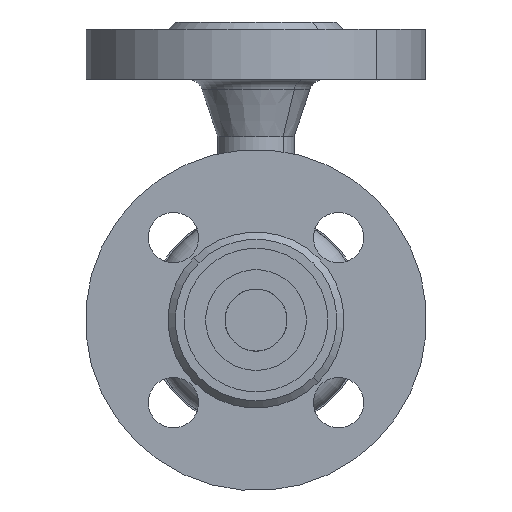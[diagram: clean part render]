
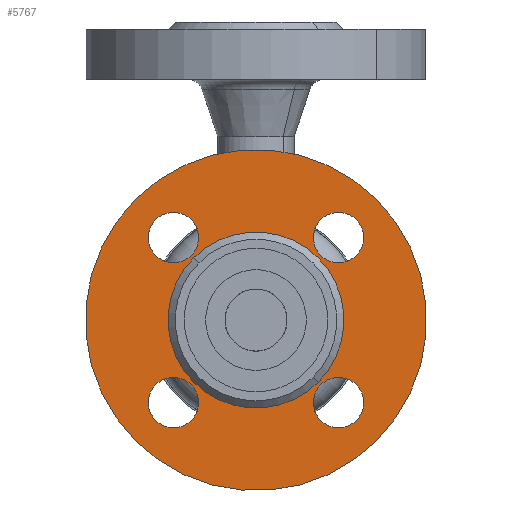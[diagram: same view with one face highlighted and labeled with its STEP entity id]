
A CAD part, front view. The second image highlights one B-rep face of the part: STEP entity #5767.
In plain terms, the highlighted planar face has unit normal (0, -1, 0).
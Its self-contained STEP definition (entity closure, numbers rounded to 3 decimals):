
#16531 = VERTEX_POINT ( 'NONE', #12919 ) ;
#910 = VERTEX_POINT ( 'NONE', #14786 ) ;
#1130 = EDGE_CURVE ( 'NONE', #16531, #7916, #14903, .T. ) ;
#1131 = ORIENTED_EDGE ( 'NONE', *, *, #18298, .T. ) ;
#17687 = VERTEX_POINT ( 'NONE', #2249 ) ;
#17836 = EDGE_CURVE ( 'NONE', #17687, #1730, #2431, .T. ) ;
#17976 = CARTESIAN_POINT ( 'NONE',  ( 25.5, 2., 0. ) ) ;
#1638 = EDGE_CURVE ( 'NONE', #7704, #13851, #15392, .T. ) ;
#1730 = VERTEX_POINT ( 'NONE', #15423 ) ;
#18298 = EDGE_CURVE ( 'NONE', #13851, #7704, #3250, .T. ) ;
#2025 = VERTEX_POINT ( 'NONE', #15652 ) ;
#2249 = CARTESIAN_POINT ( 'NONE',  ( -47.5, 2., 0. ) ) ;
#2431 = CIRCLE ( 'NONE', #2432, 47.5 ) ;
#2432 = AXIS2_PLACEMENT_3D ( 'NONE', #2433, #2434, #2435 ) ;
#2433 = CARTESIAN_POINT ( 'NONE',  ( 0., 2., 0. ) ) ;
#2434 = DIRECTION ( 'NONE',  ( 0., 1., 0. ) ) ;
#2435 = DIRECTION ( 'NONE',  ( -1., 0., 0. ) ) ;
#2608 = CARTESIAN_POINT ( 'NONE',  ( -7., 2., 32.5 ) ) ;
#3250 = CIRCLE ( 'NONE', #3251, 7. ) ;
#3251 = AXIS2_PLACEMENT_3D ( 'NONE', #3252, #3253, #3256 ) ;
#3252 = CARTESIAN_POINT ( 'NONE',  ( -32.5, 2., 0. ) ) ;
#3253 = DIRECTION ( 'NONE',  ( 0., 1., 0. ) ) ;
#3256 = DIRECTION ( 'NONE',  ( -1., 0., 0. ) ) ;
#3971 = CARTESIAN_POINT ( 'NONE',  ( 7., 2., -32.5 ) ) ;
#4055 = CARTESIAN_POINT ( 'NONE',  ( -25.5, 2., 0. ) ) ;
#4091 = CIRCLE ( 'NONE', #4092, 7. ) ;
#4092 = AXIS2_PLACEMENT_3D ( 'NONE', #4093, #4094, #4095 ) ;
#4093 = CARTESIAN_POINT ( 'NONE',  ( 0., 2., -32.5 ) ) ;
#4094 = DIRECTION ( 'NONE',  ( 0., 1., 0. ) ) ;
#4095 = DIRECTION ( 'NONE',  ( -1., 0., 0. ) ) ;
#4096 = CIRCLE ( 'NONE', #4097, 24.5 ) ;
#4097 = AXIS2_PLACEMENT_3D ( 'NONE', #4098, #4099, #4100 ) ;
#4098 = CARTESIAN_POINT ( 'NONE',  ( 0., 2., 0. ) ) ;
#4099 = DIRECTION ( 'NONE',  ( 0., 1., 0. ) ) ;
#4100 = DIRECTION ( 'NONE',  ( -1., 0., 0. ) ) ;
#4215 = CIRCLE ( 'NONE', #4216, 7. ) ;
#4216 = AXIS2_PLACEMENT_3D ( 'NONE', #4217, #4218, #4219 ) ;
#4217 = CARTESIAN_POINT ( 'NONE',  ( 32.5, 2., 0. ) ) ;
#4218 = DIRECTION ( 'NONE',  ( 0., 1., 0. ) ) ;
#4219 = DIRECTION ( 'NONE',  ( -1., 0., 0. ) ) ;
#4326 = CARTESIAN_POINT ( 'NONE',  ( 24.5, 2., 0. ) ) ;
#4868 = VERTEX_POINT ( 'NONE', #4326 ) ;
#5767 = ADVANCED_FACE ( 'NONE', ( #8664, #8665, #8666, #8667, #8668, #8669 ), #8670, .F. ) ;
#5823 = VERTEX_POINT ( 'NONE', #8720 ) ;
#5860 = ORIENTED_EDGE ( 'NONE', *, *, #15414, .T. ) ;
#6046 = EDGE_CURVE ( 'NONE', #5823, #8461, #8843, .T. ) ;
#7018 = CIRCLE ( 'NONE', #7019, 7. ) ;
#7019 = AXIS2_PLACEMENT_3D ( 'NONE', #7020, #7021, #7022 ) ;
#7020 = CARTESIAN_POINT ( 'NONE',  ( 0., 2., 32.5 ) ) ;
#7021 = DIRECTION ( 'NONE',  ( 0., 1., 0. ) ) ;
#7022 = DIRECTION ( 'NONE',  ( -1., 0., 0. ) ) ;
#7704 = VERTEX_POINT ( 'NONE', #13618 ) ;
#7743 = ORIENTED_EDGE ( 'NONE', *, *, #13871, .T. ) ;
#7916 = VERTEX_POINT ( 'NONE', #17976 ) ;
#8461 = VERTEX_POINT ( 'NONE', #2608 ) ;
#8664 = FACE_BOUND ( 'NONE', #10440, .T. ) ;
#8665 = FACE_BOUND ( 'NONE', #15162, .T. ) ;
#8666 = FACE_BOUND ( 'NONE', #13472, .T. ) ;
#8667 = FACE_BOUND ( 'NONE', #12218, .T. ) ;
#8668 = FACE_OUTER_BOUND ( 'NONE', #13347, .T. ) ;
#8669 = FACE_BOUND ( 'NONE', #12089, .T. ) ;
#8670 = PLANE ( 'NONE',  #8671 ) ;
#8671 = AXIS2_PLACEMENT_3D ( 'NONE', #8672, #8673, #8674 ) ;
#8672 = CARTESIAN_POINT ( 'NONE',  ( 24.5, 2., 0. ) ) ;
#8673 = DIRECTION ( 'NONE',  ( 0., 1., 0. ) ) ;
#8674 = DIRECTION ( 'NONE',  ( -1., 0., 0. ) ) ;
#8720 = CARTESIAN_POINT ( 'NONE',  ( 7., 2., 32.5 ) ) ;
#8780 = CIRCLE ( 'NONE', #8781, 7. ) ;
#8781 = AXIS2_PLACEMENT_3D ( 'NONE', #8784, #8785, #8786 ) ;
#8784 = CARTESIAN_POINT ( 'NONE',  ( 0., 2., -32.5 ) ) ;
#8785 = DIRECTION ( 'NONE',  ( 0., 1., 0. ) ) ;
#8786 = DIRECTION ( 'NONE',  ( -1., 0., 0. ) ) ;
#8843 = CIRCLE ( 'NONE', #8844, 7. ) ;
#8844 = AXIS2_PLACEMENT_3D ( 'NONE', #8845, #8846, #8847 ) ;
#8845 = CARTESIAN_POINT ( 'NONE',  ( 0., 2., 32.5 ) ) ;
#8846 = DIRECTION ( 'NONE',  ( 0., 1., 0. ) ) ;
#8847 = DIRECTION ( 'NONE',  ( -1., 0., 0. ) ) ;
#10440 = EDGE_LOOP ( 'NONE', ( #5860, #7743 ) ) ;
#10930 = CIRCLE ( 'NONE', #10931, 24.5 ) ;
#10931 = AXIS2_PLACEMENT_3D ( 'NONE', #10932, #10933, #10934 ) ;
#10932 = CARTESIAN_POINT ( 'NONE',  ( 0., 2., 0. ) ) ;
#10933 = DIRECTION ( 'NONE',  ( 0., 1., 0. ) ) ;
#10934 = DIRECTION ( 'NONE',  ( -1., 0., 0. ) ) ;
#11069 = ORIENTED_EDGE ( 'NONE', *, *, #13872, .T. ) ;
#11579 = ORIENTED_EDGE ( 'NONE', *, *, #15951, .T. ) ;
#11597 = EDGE_CURVE ( 'NONE', #1730, #17687, #16199, .T. ) ;
#11705 = ORIENTED_EDGE ( 'NONE', *, *, #14127, .T. ) ;
#12089 = EDGE_LOOP ( 'NONE', ( #11579, #11069 ) ) ;
#12218 = EDGE_LOOP ( 'NONE', ( #11705, #13580 ) ) ;
#12323 = ORIENTED_EDGE ( 'NONE', *, *, #11597, .F. ) ;
#12418 = ORIENTED_EDGE ( 'NONE', *, *, #6046, .T. ) ;
#12832 = ORIENTED_EDGE ( 'NONE', *, *, #17836, .F. ) ;
#12919 = CARTESIAN_POINT ( 'NONE',  ( 39.5, 2., 0. ) ) ;
#13347 = EDGE_LOOP ( 'NONE', ( #12832, #12323 ) ) ;
#13472 = EDGE_LOOP ( 'NONE', ( #15129, #12418 ) ) ;
#13580 = ORIENTED_EDGE ( 'NONE', *, *, #1130, .T. ) ;
#13618 = CARTESIAN_POINT ( 'NONE',  ( -39.5, 2., 0. ) ) ;
#13727 = VERTEX_POINT ( 'NONE', #3971 ) ;
#13851 = VERTEX_POINT ( 'NONE', #4055 ) ;
#13871 = EDGE_CURVE ( 'NONE', #13727, #2025, #4091, .T. ) ;
#13872 = EDGE_CURVE ( 'NONE', #4868, #910, #4096, .T. ) ;
#14127 = EDGE_CURVE ( 'NONE', #7916, #16531, #4215, .T. ) ;
#14697 = ORIENTED_EDGE ( 'NONE', *, *, #1638, .T. ) ;
#14786 = CARTESIAN_POINT ( 'NONE',  ( -24.5, 2., 0. ) ) ;
#14811 = EDGE_CURVE ( 'NONE', #8461, #5823, #7018, .T. ) ;
#14903 = CIRCLE ( 'NONE', #14904, 7. ) ;
#14904 = AXIS2_PLACEMENT_3D ( 'NONE', #14905, #14906, #14907 ) ;
#14905 = CARTESIAN_POINT ( 'NONE',  ( 32.5, 2., 0. ) ) ;
#14906 = DIRECTION ( 'NONE',  ( 0., 1., 0. ) ) ;
#14907 = DIRECTION ( 'NONE',  ( -1., 0., 0. ) ) ;
#15129 = ORIENTED_EDGE ( 'NONE', *, *, #14811, .T. ) ;
#15162 = EDGE_LOOP ( 'NONE', ( #14697, #1131 ) ) ;
#15392 = CIRCLE ( 'NONE', #15393, 7. ) ;
#15393 = AXIS2_PLACEMENT_3D ( 'NONE', #15394, #15395, #15396 ) ;
#15394 = CARTESIAN_POINT ( 'NONE',  ( -32.5, 2., 0. ) ) ;
#15395 = DIRECTION ( 'NONE',  ( 0., 1., 0. ) ) ;
#15396 = DIRECTION ( 'NONE',  ( -1., 0., 0. ) ) ;
#15414 = EDGE_CURVE ( 'NONE', #2025, #13727, #8780, .T. ) ;
#15423 = CARTESIAN_POINT ( 'NONE',  ( 47.5, 2., 0. ) ) ;
#15652 = CARTESIAN_POINT ( 'NONE',  ( -7., 2., -32.5 ) ) ;
#15951 = EDGE_CURVE ( 'NONE', #910, #4868, #10930, .T. ) ;
#16199 = CIRCLE ( 'NONE', #16200, 47.5 ) ;
#16200 = AXIS2_PLACEMENT_3D ( 'NONE', #16201, #16202, #16203 ) ;
#16201 = CARTESIAN_POINT ( 'NONE',  ( 0., 2., 0. ) ) ;
#16202 = DIRECTION ( 'NONE',  ( 0., 1., 0. ) ) ;
#16203 = DIRECTION ( 'NONE',  ( -1., 0., 0. ) ) ;
